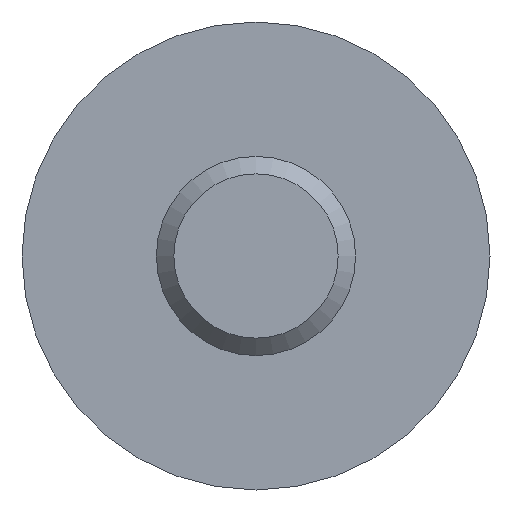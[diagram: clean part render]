
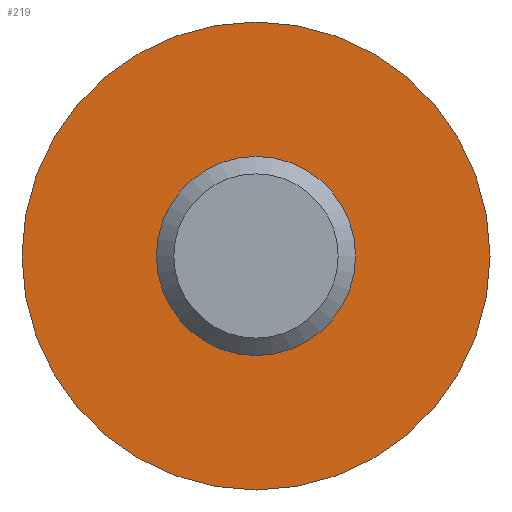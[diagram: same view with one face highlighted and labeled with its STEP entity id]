
A CAD part, front view. The second image highlights one B-rep face of the part: STEP entity #219.
In plain terms, the highlighted planar face has unit normal (0, -1, 0).
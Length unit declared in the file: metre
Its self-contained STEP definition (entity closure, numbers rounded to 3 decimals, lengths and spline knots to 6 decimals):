
#45=PLANE('',#242);
#53=FACE_BOUND('',#79,.T.);
#62=FACE_OUTER_BOUND('',#78,.T.);
#78=EDGE_LOOP('',(#168));
#79=EDGE_LOOP('',(#169));
#101=CIRCLE('',#243,0.0047);
#102=CIRCLE('',#244,0.002);
#118=VERTEX_POINT('',#391);
#119=VERTEX_POINT('',#393);
#139=EDGE_CURVE('',#118,#118,#101,.T.);
#140=EDGE_CURVE('',#119,#119,#102,.T.);
#168=ORIENTED_EDGE('',*,*,#139,.T.);
#169=ORIENTED_EDGE('',*,*,#140,.F.);
#219=ADVANCED_FACE('',(#62,#53),#45,.T.);
#242=AXIS2_PLACEMENT_3D('',#390,#278,#279);
#243=AXIS2_PLACEMENT_3D('',#392,#280,#281);
#244=AXIS2_PLACEMENT_3D('',#394,#282,#283);
#278=DIRECTION('center_axis',(0.,-1.,0.));
#279=DIRECTION('ref_axis',(0.,0.,-1.));
#280=DIRECTION('center_axis',(0.,-1.,0.));
#281=DIRECTION('ref_axis',(0.,0.,-1.));
#282=DIRECTION('center_axis',(0.,-1.,0.));
#283=DIRECTION('ref_axis',(0.,0.,-1.));
#390=CARTESIAN_POINT('Origin',(0.0047,0.,0.));
#391=CARTESIAN_POINT('',(0.,0.,-0.0047));
#392=CARTESIAN_POINT('Origin',(0.,0.,0.));
#393=CARTESIAN_POINT('',(0.,0.,-0.002));
#394=CARTESIAN_POINT('Origin',(0.,0.,0.));
